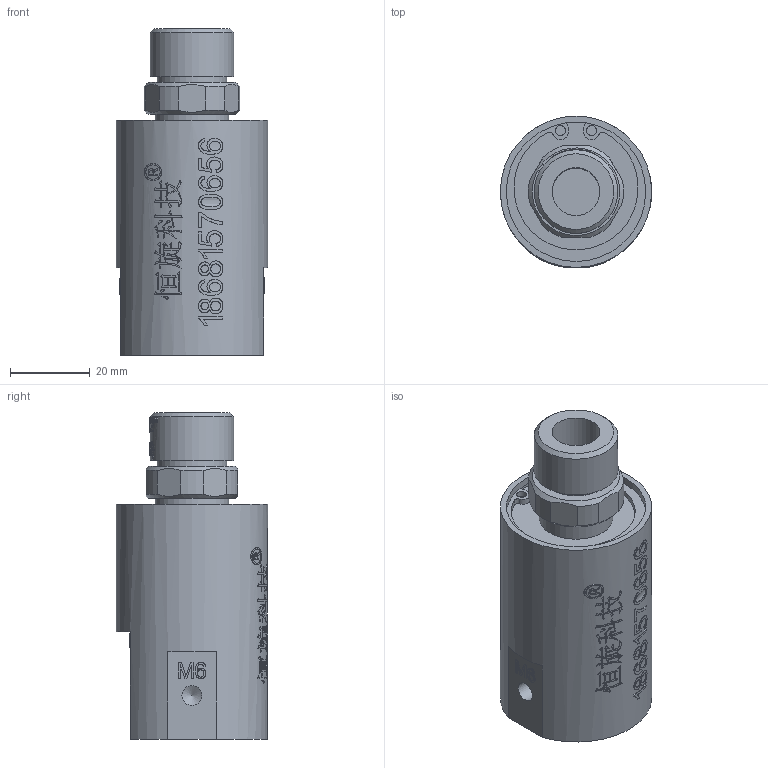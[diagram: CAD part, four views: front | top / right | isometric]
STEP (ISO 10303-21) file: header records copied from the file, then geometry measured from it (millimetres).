
FILE_DESCRIPTION(/* description */ (''),/* implementation_level */ '2;1');
FILE_NAME(/* name */ 'HC0104(RH)-3D模型.stp',/* time_stamp */ '2025-07-07T09:16:18+08:00',/* author */ (''),/* organization */ (''),/* preprocessor_version */ 'ST-DEVELOPER v16.7',/* originating_system */ 'SIEMENS PLM Software NX 12.0',/* authorisation */ '');
FILE_SCHEMA (('AUTOMOTIVE_DESIGN { 1 0 10303 214 3 1 1 1 }'));
Length unit declared in the file: millimetre
Products named in the file (1): Admi1AA49A9B08a7
Bounding box: 38 x 38.03 x 82 mm (x, y, z)
Volume: 59457.7 mm3; surface area: 15836.4 mm2
Topology: 1 solids, 1 shells, 960 faces, 2653 edges, 1769 vertices
Faces by surface type: extrusion 522, plane 344, bspline 48, cylinder 41, cone 5
Full cylindrical faces by diameter (mm): 2.5 x2, 5 x2, 12 x2, 17.5 x1, 18.5 x2, 21 x1, 35 x1, 37 x1, 38 x1
Entity records: 38560 total; most frequent: CARTESIAN_POINT 18161, ORIENTED_EDGE 5244, EDGE_CURVE 2622, B_SPLINE_CURVE_WITH_KNOTS 2594, DIRECTION 2097, VERTEX_POINT 1759, EDGE_LOOP 1055, ADVANCED_FACE 960
